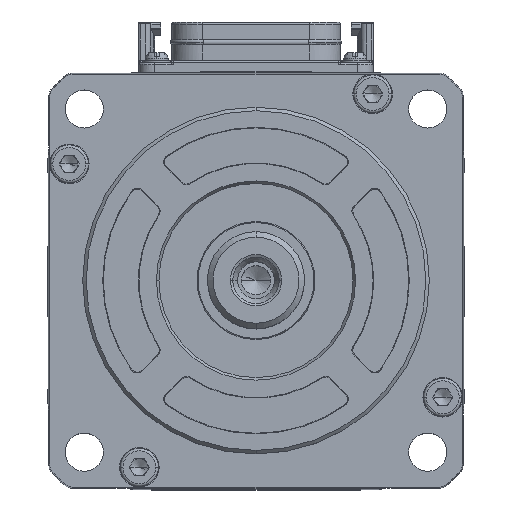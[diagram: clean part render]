
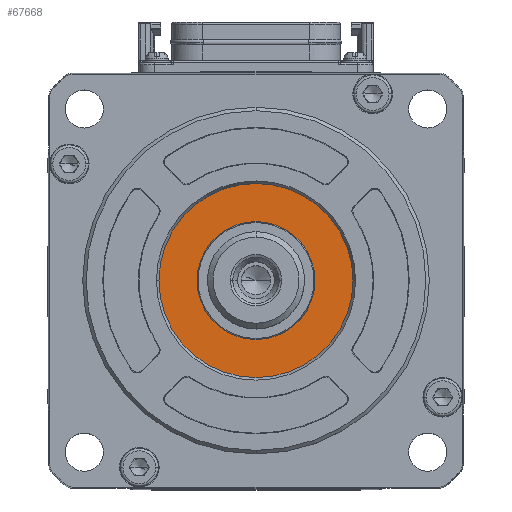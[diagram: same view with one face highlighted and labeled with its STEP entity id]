
A CAD part, top view. The second image highlights one B-rep face of the part: STEP entity #67668.
In plain terms, the highlighted planar face has unit normal (0, 0, 1).
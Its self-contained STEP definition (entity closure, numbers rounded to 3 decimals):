
#1316 = EDGE_LOOP ( 'NONE', ( #80428, #40187 ) ) ;
#5919 = EDGE_CURVE ( 'NONE', #44530, #87062, #79850, .T. ) ;
#6971 = CARTESIAN_POINT ( 'NONE',  ( 8.5, 0., 44.347 ) ) ;
#9255 = DIRECTION ( 'NONE',  ( 0., 1., 0. ) ) ;
#14084 = DIRECTION ( 'NONE',  ( 0., 1., 0. ) ) ;
#14326 = FACE_OUTER_BOUND ( 'NONE', #35260, .T. ) ;
#15771 = CARTESIAN_POINT ( 'NONE',  ( 0., 0., 44.347 ) ) ;
#19432 = CARTESIAN_POINT ( 'NONE',  ( 0., 14., 44.347 ) ) ;
#25043 = DIRECTION ( 'NONE',  ( 0., 1., 0. ) ) ;
#25296 = AXIS2_PLACEMENT_3D ( 'NONE', #79733, #86636, #73122 ) ;
#27227 = DIRECTION ( 'NONE',  ( 0., 0., 1. ) ) ;
#29793 = AXIS2_PLACEMENT_3D ( 'NONE', #86469, #79293, #25043 ) ;
#32286 = CIRCLE ( 'NONE', #25296, 14. ) ;
#33707 = DIRECTION ( 'NONE',  ( 0., 0., 1. ) ) ;
#34024 = CARTESIAN_POINT ( 'NONE',  ( 0., 0., 44.347 ) ) ;
#34520 = CARTESIAN_POINT ( 'NONE',  ( -8.5, 0., 44.347 ) ) ;
#34907 = AXIS2_PLACEMENT_3D ( 'NONE', #15771, #70038, #9255 ) ;
#35260 = EDGE_LOOP ( 'NONE', ( #41595, #53946 ) ) ;
#40187 = ORIENTED_EDGE ( 'NONE', *, *, #79241, .F. ) ;
#41595 = ORIENTED_EDGE ( 'NONE', *, *, #5919, .F. ) ;
#42813 = AXIS2_PLACEMENT_3D ( 'NONE', #34024, #27227, #54881 ) ;
#43085 = AXIS2_PLACEMENT_3D ( 'NONE', #54859, #33707, #14084 ) ;
#44530 = VERTEX_POINT ( 'NONE', #19432 ) ;
#51014 = CIRCLE ( 'NONE', #42813, 8.5 ) ;
#53946 = ORIENTED_EDGE ( 'NONE', *, *, #88003, .F. ) ;
#54505 = CARTESIAN_POINT ( 'NONE',  ( 0., -14., 44.347 ) ) ;
#54859 = CARTESIAN_POINT ( 'NONE',  ( 0., 0., 44.347 ) ) ;
#54881 = DIRECTION ( 'NONE',  ( 0., 1., 0. ) ) ;
#55027 = VERTEX_POINT ( 'NONE', #34520 ) ;
#57208 = PLANE ( 'NONE',  #29793 ) ;
#64472 = FACE_BOUND ( 'NONE', #1316, .T. ) ;
#67668 = ADVANCED_FACE ( 'NONE', ( #64472, #14326 ), #57208, .T. ) ;
#70038 = DIRECTION ( 'NONE',  ( 0., 0., -1. ) ) ;
#72346 = EDGE_CURVE ( 'NONE', #55027, #81636, #85443, .T. ) ;
#73122 = DIRECTION ( 'NONE',  ( 0., 1., 0. ) ) ;
#79241 = EDGE_CURVE ( 'NONE', #81636, #55027, #51014, .T. ) ;
#79293 = DIRECTION ( 'NONE',  ( 0., 0., 1. ) ) ;
#79733 = CARTESIAN_POINT ( 'NONE',  ( 0., 0., 44.347 ) ) ;
#79850 = CIRCLE ( 'NONE', #34907, 14. ) ;
#80428 = ORIENTED_EDGE ( 'NONE', *, *, #72346, .F. ) ;
#81636 = VERTEX_POINT ( 'NONE', #6971 ) ;
#85443 = CIRCLE ( 'NONE', #43085, 8.5 ) ;
#86469 = CARTESIAN_POINT ( 'NONE',  ( 0., 0., 44.347 ) ) ;
#86636 = DIRECTION ( 'NONE',  ( 0., 0., -1. ) ) ;
#87062 = VERTEX_POINT ( 'NONE', #54505 ) ;
#88003 = EDGE_CURVE ( 'NONE', #87062, #44530, #32286, .T. ) ;
